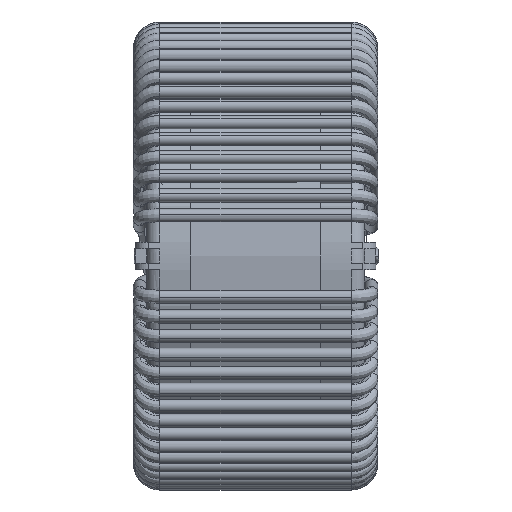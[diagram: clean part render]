
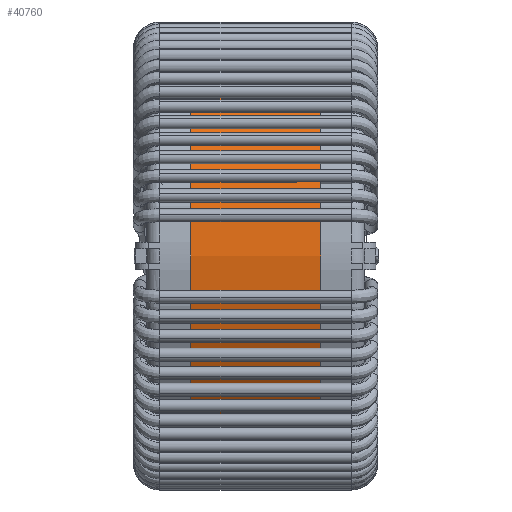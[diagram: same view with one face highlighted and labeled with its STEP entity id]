
A CAD part, left-side view. The second image highlights one B-rep face of the part: STEP entity #40760.
In plain terms, the highlighted cylindrical face has radius 17.1 mm (diameter 34.2 mm), a partial arc.
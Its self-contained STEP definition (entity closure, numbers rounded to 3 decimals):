
#1522 = EDGE_CURVE ( 'NONE', #3205, #48896, #63904, .T. ) ;
#2028 = VERTEX_POINT ( 'NONE', #58133 ) ;
#3205 = VERTEX_POINT ( 'NONE', #40071 ) ;
#4135 = FACE_OUTER_BOUND ( 'NONE', #30710, .T. ) ;
#6948 = LINE ( 'NONE', #42823, #53596 ) ;
#10006 = AXIS2_PLACEMENT_3D ( 'NONE', #31602, #56261, #72346 ) ;
#11498 = CARTESIAN_POINT ( 'NONE',  ( 0., -5., -17.1 ) ) ;
#11932 = EDGE_CURVE ( 'NONE', #38794, #2028, #48711, .T. ) ;
#14522 = LINE ( 'NONE', #75078, #69019 ) ;
#16926 = CARTESIAN_POINT ( 'NONE',  ( 0., 5., 17.1 ) ) ;
#18138 = AXIS2_PLACEMENT_3D ( 'NONE', #68298, #54681, #62160 ) ;
#26593 = EDGE_CURVE ( 'NONE', #48896, #2028, #6948, .T. ) ;
#30710 = EDGE_LOOP ( 'NONE', ( #66860, #71849, #45877, #59475 ) ) ;
#31602 = CARTESIAN_POINT ( 'NONE',  ( 0., 5., 0. ) ) ;
#34147 = DIRECTION ( 'NONE',  ( 0., -1., 0. ) ) ;
#38794 = VERTEX_POINT ( 'NONE', #11498 ) ;
#40071 = CARTESIAN_POINT ( 'NONE',  ( 0., 5., -17.1 ) ) ;
#40760 = ADVANCED_FACE ( 'NONE', ( #4135 ), #44852, .T. ) ;
#41778 = DIRECTION ( 'NONE',  ( 0., -1., 0. ) ) ;
#42823 = CARTESIAN_POINT ( 'NONE',  ( 0., 5., 17.1 ) ) ;
#44852 = CYLINDRICAL_SURFACE ( 'NONE', #18138, 17.1 ) ;
#45877 = ORIENTED_EDGE ( 'NONE', *, *, #50107, .T. ) ;
#48711 = CIRCLE ( 'NONE', #67131, 17.1 ) ;
#48896 = VERTEX_POINT ( 'NONE', #16926 ) ;
#50107 = EDGE_CURVE ( 'NONE', #3205, #38794, #14522, .T. ) ;
#53596 = VECTOR ( 'NONE', #34147, 1000. ) ;
#54681 = DIRECTION ( 'NONE',  ( 0., -1., 0. ) ) ;
#56261 = DIRECTION ( 'NONE',  ( 0., 1., 0. ) ) ;
#58133 = CARTESIAN_POINT ( 'NONE',  ( 0., -5., 17.1 ) ) ;
#59475 = ORIENTED_EDGE ( 'NONE', *, *, #11932, .T. ) ;
#61273 = CARTESIAN_POINT ( 'NONE',  ( 0., -5., 0. ) ) ;
#62160 = DIRECTION ( 'NONE',  ( 0., 0., -1. ) ) ;
#63904 = CIRCLE ( 'NONE', #10006, 17.1 ) ;
#66860 = ORIENTED_EDGE ( 'NONE', *, *, #26593, .F. ) ;
#67131 = AXIS2_PLACEMENT_3D ( 'NONE', #61273, #67384, #71077 ) ;
#67384 = DIRECTION ( 'NONE',  ( 0., 1., 0. ) ) ;
#68298 = CARTESIAN_POINT ( 'NONE',  ( 0., 5., 0. ) ) ;
#69019 = VECTOR ( 'NONE', #41778, 1000. ) ;
#71077 = DIRECTION ( 'NONE',  ( 0., 0., 1. ) ) ;
#71849 = ORIENTED_EDGE ( 'NONE', *, *, #1522, .F. ) ;
#72346 = DIRECTION ( 'NONE',  ( 0., 0., 1. ) ) ;
#75078 = CARTESIAN_POINT ( 'NONE',  ( 0., 5., -17.1 ) ) ;
